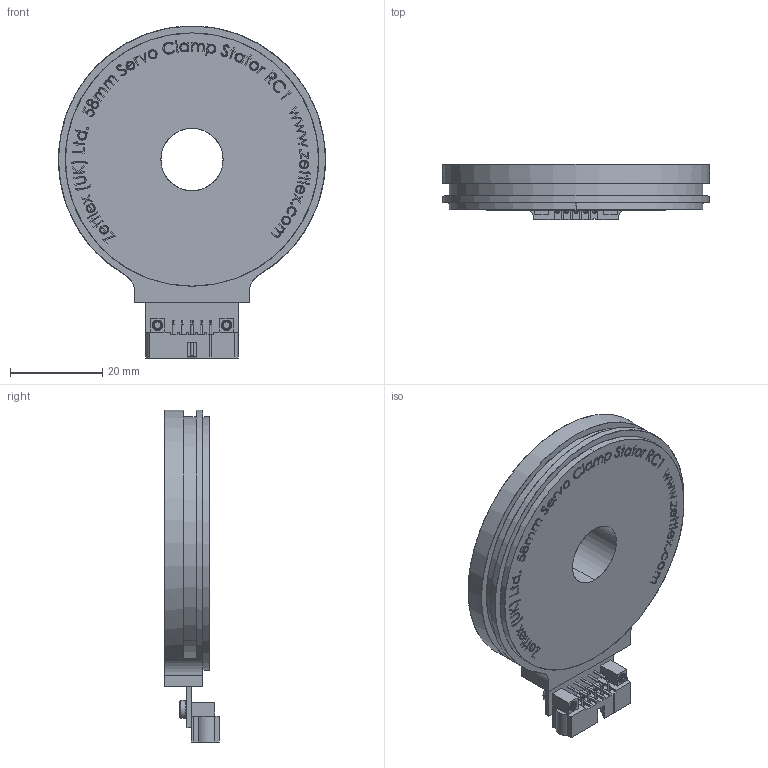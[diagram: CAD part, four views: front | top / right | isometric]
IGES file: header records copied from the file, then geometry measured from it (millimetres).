
Start section: SolidWorks IGES file using analytic representation for surfaces
Global section: file name: C:\Zettlex Data\Mechanical Drawings\1615\58mm Servo Clamp Stator RC1 Rev 1-0.IGS; native system: SolidWorks 2015; preprocessor: SolidWorks 2015; author: Nigel; date: 150908.085903; units: millimetre
Bounding box: 58 x 11.82 x 72.1 mm (x, y, z)
Surface area: 9804 mm2 (no closed solid volume)
Topology: 0 solids, 0 shells, 1331 faces, 14157 edges, 14153 vertices
Faces by surface type: bspline 1027, revolution 304
